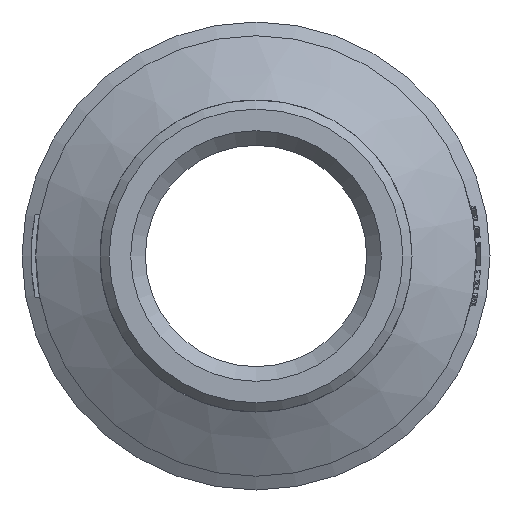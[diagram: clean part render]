
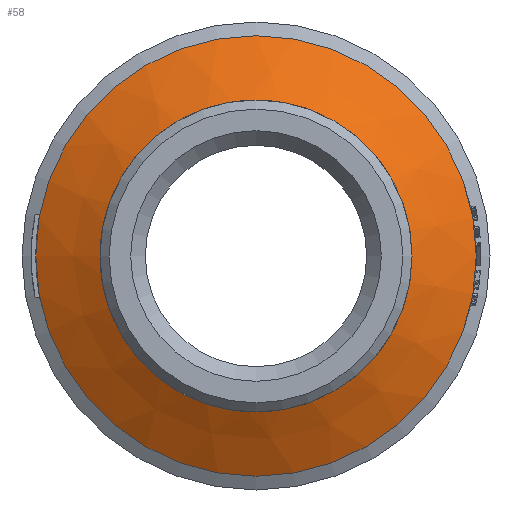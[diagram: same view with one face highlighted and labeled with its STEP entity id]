
A CAD part, front view. The second image highlights one B-rep face of the part: STEP entity #58.
In plain terms, the highlighted conical face has half-angle 60 degrees and reference radius 20 mm.
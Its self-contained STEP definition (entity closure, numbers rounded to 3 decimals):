
#58=ADVANCED_FACE('',(#417,#419),#421,.T.);
#417=FACE_BOUND('',#418,.T.);
#418=EDGE_LOOP('',(#2019,#2020,#2021,#2022,#2023,#2024,#2025,#2026,#2027));
#419=FACE_OUTER_BOUND('',#420,.T.);
#420=EDGE_LOOP('',(#2028));
#421=CONICAL_SURFACE('',#422,20.,1.047);
#422=AXIS2_PLACEMENT_3D('',#423,#424,#425);
#423=CARTESIAN_POINT('',(0.,-20.191,0.));
#424=DIRECTION('',(0.,1.,0.));
#425=DIRECTION('',(1.,0.,0.));
#2019=ORIENTED_EDGE('',*,*,#3773,.F.);
#2020=ORIENTED_EDGE('',*,*,#3774,.F.);
#2021=ORIENTED_EDGE('',*,*,#3764,.F.);
#2022=ORIENTED_EDGE('',*,*,#3775,.F.);
#2023=ORIENTED_EDGE('',*,*,#3776,.F.);
#2024=ORIENTED_EDGE('',*,*,#3777,.F.);
#2025=ORIENTED_EDGE('',*,*,#3778,.F.);
#2026=ORIENTED_EDGE('',*,*,#3760,.F.);
#2027=ORIENTED_EDGE('',*,*,#3772,.F.);
#2028=ORIENTED_EDGE('',*,*,#3779,.F.);
#3760=EDGE_CURVE('',#4460,#4462,#4463,.T.);
#3764=EDGE_CURVE('',#4468,#4470,#4471,.T.);
#3772=EDGE_CURVE('',#4482,#4460,#4484,.T.);
#3773=EDGE_CURVE('',#4485,#4482,#4486,.F.);
#3774=EDGE_CURVE('',#4470,#4485,#4487,.F.);
#3775=EDGE_CURVE('',#4488,#4468,#4489,.T.);
#3776=EDGE_CURVE('',#4490,#4488,#4491,.F.);
#3777=EDGE_CURVE('',#4492,#4490,#4493,.F.);
#3778=EDGE_CURVE('',#4462,#4492,#4494,.F.);
#3779=EDGE_CURVE('',#4495,#4495,#4496,.F.);
#4460=VERTEX_POINT('',#5650);
#4462=VERTEX_POINT('',#5654);
#4463=CIRCLE('',#5655,17.);
#4468=VERTEX_POINT('',#5668);
#4470=VERTEX_POINT('',#5672);
#4471=CIRCLE('',#5673,17.);
#4482=VERTEX_POINT('',#5708);
#4484=B_SPLINE_CURVE_WITH_KNOTS('',3,
(#5712,#5713,#5714,#5715,#5716,#5717),
.UNSPECIFIED.,.F.,.F.,
(4,1,1,4),
(0.,0.262,0.595,1.),
.UNSPECIFIED.);
#4485=VERTEX_POINT('',#5718);
#4486=CIRCLE('',#5719,16.);
#4487=B_SPLINE_CURVE_WITH_KNOTS('',3,
(#5723,#5724,#5725,#5726,#5727,#5728),
.UNSPECIFIED.,.F.,.F.,
(4,1,1,4),
(0.,0.262,0.595,1.),
.UNSPECIFIED.);
#4488=VERTEX_POINT('',#5729);
#4489=B_SPLINE_CURVE_WITH_KNOTS('',3,
(#5730,#5731,#5732,#5733,#5734,#5735),
.UNSPECIFIED.,.F.,.F.,
(4,1,1,4),
(0.,0.262,0.595,1.),
.UNSPECIFIED.);
#4490=VERTEX_POINT('',#5736);
#4491=CIRCLE('',#5737,16.);
#4492=VERTEX_POINT('',#5741);
#4493=CIRCLE('',#5742,16.);
#4494=B_SPLINE_CURVE_WITH_KNOTS('',3,
(#5746,#5747,#5748,#5749,#5750,#5751),
.UNSPECIFIED.,.F.,.F.,
(4,1,1,4),
(0.,0.262,0.595,1.),
.UNSPECIFIED.);
#4495=VERTEX_POINT('',#5752);
#4496=CIRCLE('',#5753,24.);
#5650=CARTESIAN_POINT('',(2.5,-21.923,16.815));
#5654=CARTESIAN_POINT('',(-2.5,-21.923,16.815));
#5655=AXIS2_PLACEMENT_3D('',#5656,#5657,#5658);
#5656=CARTESIAN_POINT('',(0.,-21.923,0.));
#5657=DIRECTION('',(0.,-1.,0.));
#5658=DIRECTION('',(0.147,0.,0.989));
#5668=CARTESIAN_POINT('',(-2.5,-21.923,-16.815));
#5672=CARTESIAN_POINT('',(2.5,-21.923,-16.815));
#5673=AXIS2_PLACEMENT_3D('',#5674,#5675,#5676);
#5674=CARTESIAN_POINT('',(0.,-21.923,0.));
#5675=DIRECTION('',(0.,-1.,0.));
#5676=DIRECTION('',(-0.147,0.,-0.989));
#5708=CARTESIAN_POINT('',(2.784,-22.5,15.756));
#5712=CARTESIAN_POINT('',(2.784,-22.5,15.756));
#5713=CARTESIAN_POINT('',(2.759,-22.45,15.848));
#5714=CARTESIAN_POINT('',(2.703,-22.336,16.059));
#5715=CARTESIAN_POINT('',(2.608,-22.144,16.412));
#5716=CARTESIAN_POINT('',(2.538,-22.001,16.672));
#5717=CARTESIAN_POINT('',(2.5,-21.923,16.815));
#5718=CARTESIAN_POINT('',(2.784,-22.5,-15.756));
#5719=AXIS2_PLACEMENT_3D('',#5720,#5721,#5722);
#5720=CARTESIAN_POINT('',(0.,-22.5,0.));
#5721=DIRECTION('',(0.,1.,0.));
#5722=DIRECTION('',(0.174,0.,0.985));
#5723=CARTESIAN_POINT('',(2.784,-22.5,-15.756));
#5724=CARTESIAN_POINT('',(2.759,-22.45,-15.848));
#5725=CARTESIAN_POINT('',(2.703,-22.336,-16.059));
#5726=CARTESIAN_POINT('',(2.608,-22.144,-16.412));
#5727=CARTESIAN_POINT('',(2.538,-22.001,-16.672));
#5728=CARTESIAN_POINT('',(2.5,-21.923,-16.815));
#5729=CARTESIAN_POINT('',(-2.784,-22.5,-15.756));
#5730=CARTESIAN_POINT('',(-2.784,-22.5,-15.756));
#5731=CARTESIAN_POINT('',(-2.759,-22.45,-15.848));
#5732=CARTESIAN_POINT('',(-2.703,-22.336,-16.059));
#5733=CARTESIAN_POINT('',(-2.608,-22.144,-16.412));
#5734=CARTESIAN_POINT('',(-2.538,-22.001,-16.672));
#5735=CARTESIAN_POINT('',(-2.5,-21.923,-16.815));
#5736=CARTESIAN_POINT('',(-16.,-22.5,0.));
#5737=AXIS2_PLACEMENT_3D('',#5738,#5739,#5740);
#5738=CARTESIAN_POINT('',(0.,-22.5,0.));
#5739=DIRECTION('',(0.,1.,0.));
#5740=DIRECTION('',(-0.174,0.,-0.985));
#5741=CARTESIAN_POINT('',(-2.784,-22.5,15.756));
#5742=AXIS2_PLACEMENT_3D('',#5743,#5744,#5745);
#5743=CARTESIAN_POINT('',(0.,-22.5,0.));
#5744=DIRECTION('',(0.,1.,0.));
#5745=DIRECTION('',(-1.,0.,0.));
#5746=CARTESIAN_POINT('',(-2.784,-22.5,15.756));
#5747=CARTESIAN_POINT('',(-2.759,-22.45,15.848));
#5748=CARTESIAN_POINT('',(-2.703,-22.336,16.059));
#5749=CARTESIAN_POINT('',(-2.608,-22.144,16.412));
#5750=CARTESIAN_POINT('',(-2.538,-22.001,16.672));
#5751=CARTESIAN_POINT('',(-2.5,-21.923,16.815));
#5752=CARTESIAN_POINT('',(-24.,-17.881,0.));
#5753=AXIS2_PLACEMENT_3D('',#5754,#5755,#5756);
#5754=CARTESIAN_POINT('',(0.,-17.881,0.));
#5755=DIRECTION('',(0.,-1.,0.));
#5756=DIRECTION('',(-1.,0.,0.));
